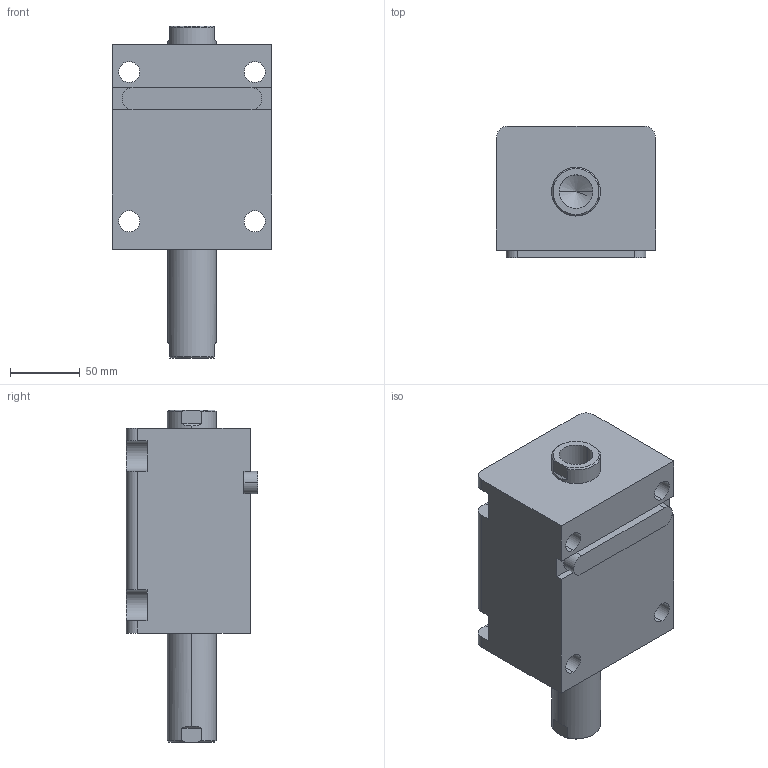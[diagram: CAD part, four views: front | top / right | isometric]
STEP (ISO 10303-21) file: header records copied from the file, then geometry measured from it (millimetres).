
FILE_DESCRIPTION (( 'STEP AP203' ), '1' );
FILE_NAME ('HTB-LW63-65N.STEP', '2019-10-09T08:27:46', ( '微软用户' ), ( '微软中国' ), 'SwSTEP 2.0', 'SolidWorks 2012', '' );
FILE_SCHEMA (( 'CONFIG_CONTROL_DESIGN' ));
Length unit declared in the file: millimetre
Products named in the file (4): HTB-LW63-65N; HTB-LA63-瑩; HTB-LW63-65N活塞杆; HTB-LW63-65掛极
Assembly tree (3 placements, depth 2):
  HTB-LW63-65N
    HTB-LW63-65掛极
    HTB-LW63-65N活塞杆
    HTB-LA63-瑩
Bounding box: 114 x 94.5 x 238 mm (x, y, z)
Volume: 1323851.4 mm3; surface area: 166531.1 mm2
Topology: 3 solids, 3 shells, 101 faces, 253 edges, 164 vertices
Faces by surface type: plane 44, cylinder 41, cone 12, torus 4
Entity records: 3467 total; most frequent: CARTESIAN_POINT 576, DIRECTION 549, ORIENTED_EDGE 498, EDGE_CURVE 249, AXIS2_PLACEMENT_3D 209, VERTEX_POINT 164, VECTOR 131, LINE 131
